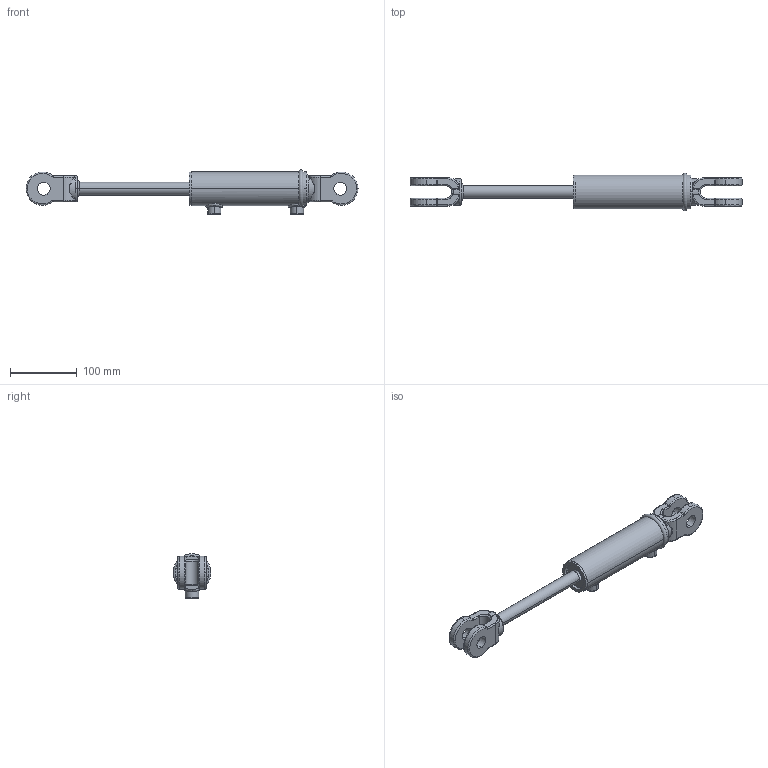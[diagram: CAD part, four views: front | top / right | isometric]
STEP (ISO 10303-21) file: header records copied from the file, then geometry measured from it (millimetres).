
FILE_DESCRIPTION (( 'STEP AP203' ), '1' );
FILE_NAME ('CL-CL150075x102 (4) extended.STEP', '2014-11-20T13:20:22', ( '' ), ( '' ), 'SwSTEP 2.0', 'SolidWorks 2014', '' );
FILE_SCHEMA (( 'CONFIG_CONTROL_DESIGN' ));
Length unit declared in the file: millimetre
Products named in the file (3): CL-CL150075x102 (4) BODY; 4 SPARE; CL-CL150075x102 (4) extended
Assembly tree (2 placements, depth 2):
  CL-CL150075x102 (4) extended
    CL-CL150075x102 (4) BODY
    4 SPARE
Bounding box: 498.41 x 56.8 x 66.8 mm (x, y, z)
Volume: 515615.6 mm3; surface area: 87885.9 mm2
Topology: 2 solids, 2 shells, 261 faces, 641 edges, 379 vertices
Faces by surface type: bspline 116, cylinder 88, plane 32, torus 17, cone 8
Entity records: 23685 total; most frequent: CARTESIAN_POINT 18075, ORIENTED_EDGE 1250, DIRECTION 902, EDGE_CURVE 625, VERTEX_POINT 379, AXIS2_PLACEMENT_3D 376, EDGE_LOOP 280, ADVANCED_FACE 261
